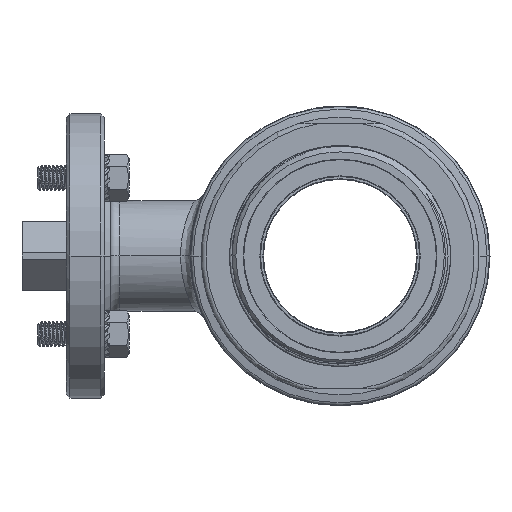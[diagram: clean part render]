
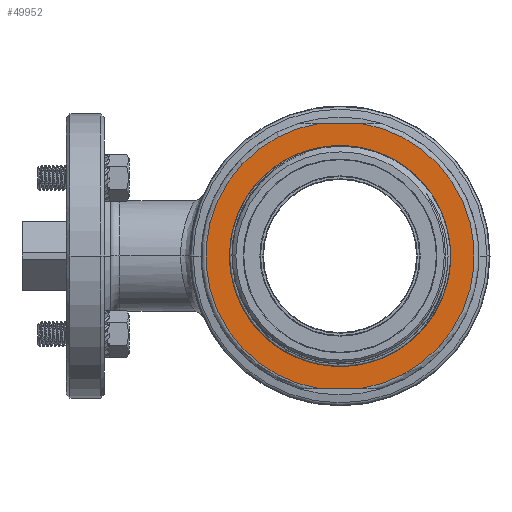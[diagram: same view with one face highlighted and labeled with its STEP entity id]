
A CAD part, left-side view. The second image highlights one B-rep face of the part: STEP entity #49952.
In plain terms, the highlighted planar face has unit normal (-1, 0, 0).
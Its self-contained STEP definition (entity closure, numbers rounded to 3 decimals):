
#6613=CARTESIAN_POINT('',(-49.,-6.5,-42.));
#6736=CARTESIAN_POINT('',(-49.,6.5,42.));
#6755=CARTESIAN_POINT('',(-49.,0.,0.));
#6756=DIRECTION('',(1.,0.,0.));
#6757=DIRECTION('',(0.,-0.153,0.988));
#6758=AXIS2_PLACEMENT_3D('',#6755,#6756,#6757);
#6763=DIRECTION('',(0.,-1.,0.));
#6764=VECTOR('',#6763,13.);
#6765=CARTESIAN_POINT('',(-49.,6.5,-42.));
#6766=LINE('',#6765,#6764);
#6770=CARTESIAN_POINT('',(-49.,0.,0.));
#6771=DIRECTION('',(1.,0.,0.));
#6772=DIRECTION('',(0.,0.153,-0.988));
#6773=AXIS2_PLACEMENT_3D('',#6770,#6771,#6772);
#6778=DIRECTION('',(0.,-1.,0.));
#6779=VECTOR('',#6778,13.);
#6780=CARTESIAN_POINT('',(-49.,6.5,42.));
#6781=LINE('',#6780,#6779);
#6785=CARTESIAN_POINT('',(-49.,0.,0.));
#6786=DIRECTION('',(1.,0.,0.));
#6787=DIRECTION('',(0.,1.,0.));
#6788=AXIS2_PLACEMENT_3D('',#6785,#6786,#6787);
#6793=CARTESIAN_POINT('',(-49.,0.,0.));
#6794=DIRECTION('',(-1.,0.,0.));
#6795=DIRECTION('',(0.,1.,0.));
#6796=AXIS2_PLACEMENT_3D('',#6793,#6794,#6795);
#7252=CARTESIAN_POINT('',(-49.,35.,0.));
#42317=VERTEX_POINT('',#6613);
#42318=CARTESIAN_POINT('',(-49.,-6.5,42.));
#42319=VERTEX_POINT('',#42318);
#42322=VERTEX_POINT('',#6736);
#42323=CARTESIAN_POINT('',(-49.,6.5,-42.));
#42324=VERTEX_POINT('',#42323);
#42372=VERTEX_POINT('',#7252);
#42399=CARTESIAN_POINT('',(-49.,-35.,0.));
#42400=VERTEX_POINT('',#42399);
#49935=CARTESIAN_POINT('',(-49.,0.,0.));
#49936=DIRECTION('',(-1.,0.,0.));
#49937=DIRECTION('',(0.,-1.,0.));
#49938=AXIS2_PLACEMENT_3D('',#49935,#49936,#49937);
#49939=PLANE('',#49938);
#49940=ORIENTED_EDGE('',*,*,#49855,.T.);
#49941=ORIENTED_EDGE('',*,*,#49875,.F.);
#49942=ORIENTED_EDGE('',*,*,#49912,.T.);
#49943=ORIENTED_EDGE('',*,*,#49925,.T.);
#49944=EDGE_LOOP('',(#49940,#49941,#49942,#49943));
#49945=FACE_OUTER_BOUND('',#49944,.F.);
#49947=ORIENTED_EDGE('',*,*,#49946,.F.);
#49949=ORIENTED_EDGE('',*,*,#49948,.T.);
#49950=EDGE_LOOP('',(#49947,#49949));
#49951=FACE_BOUND('',#49950,.F.);
#49952=ADVANCED_FACE('',(#49945,#49951),#49939,.T.);
#6759=CIRCLE('',#6758,42.5);
#6774=CIRCLE('',#6773,42.5);
#6789=CIRCLE('',#6788,35.);
#6797=CIRCLE('',#6796,35.);
#49855=EDGE_CURVE('',#42319,#42317,#6759,.T.);
#49875=EDGE_CURVE('',#42324,#42317,#6766,.T.);
#49912=EDGE_CURVE('',#42324,#42322,#6774,.T.);
#49925=EDGE_CURVE('',#42322,#42319,#6781,.T.);
#49946=EDGE_CURVE('',#42372,#42400,#6789,.T.);
#49948=EDGE_CURVE('',#42372,#42400,#6797,.T.);
